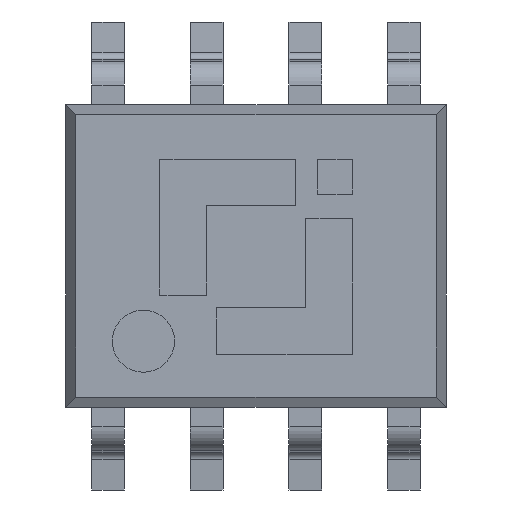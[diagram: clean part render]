
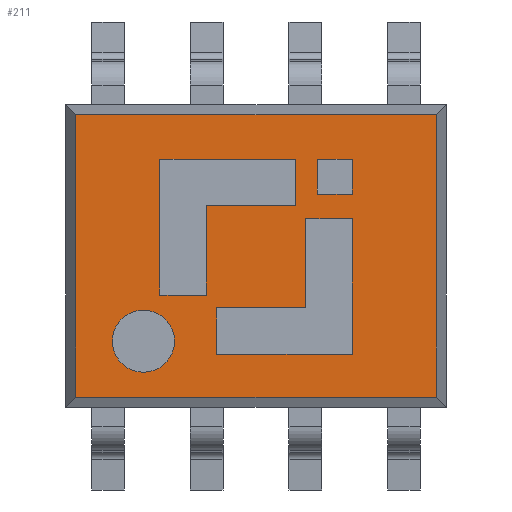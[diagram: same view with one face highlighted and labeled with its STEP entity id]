
A CAD part, top view. The second image highlights one B-rep face of the part: STEP entity #211.
In plain terms, the highlighted planar face has unit normal (0, 0, 1).
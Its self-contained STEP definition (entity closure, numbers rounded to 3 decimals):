
#27=CARTESIAN_POINT('',(0.,0.,1.45));
#28=DIRECTION('',(0.,0.,1.));
#29=DIRECTION('',(1.,0.,0.));
#30=AXIS2_PLACEMENT_3D('',#27,#28,#29);
#31=PLANE('',#30);
#32=CARTESIAN_POINT('',(0.792,0.795,1.45));
#33=VERTEX_POINT('',#32);
#34=CARTESIAN_POINT('',(1.242,0.795,1.45));
#35=VERTEX_POINT('',#34);
#36=CARTESIAN_POINT('',(0.792,0.795,1.45));
#37=DIRECTION('',(1.,0.,0.));
#38=VECTOR('',#37,0.45);
#39=LINE('',#36,#38);
#40=EDGE_CURVE('',#33,#35,#39,.T.);
#41=ORIENTED_EDGE('',*,*,#40,.F.);
#42=CARTESIAN_POINT('',(0.792,1.245,1.45));
#43=VERTEX_POINT('',#42);
#44=CARTESIAN_POINT('',(0.792,1.245,1.45));
#45=DIRECTION('',(0.,-1.,0.));
#46=VECTOR('',#45,0.45);
#47=LINE('',#44,#46);
#48=EDGE_CURVE('',#43,#33,#47,.T.);
#49=ORIENTED_EDGE('',*,*,#48,.F.);
#50=CARTESIAN_POINT('',(1.242,1.245,1.45));
#51=VERTEX_POINT('',#50);
#52=CARTESIAN_POINT('',(1.242,1.245,1.45));
#53=DIRECTION('',(-1.,0.,0.));
#54=VECTOR('',#53,0.45);
#55=LINE('',#52,#54);
#56=EDGE_CURVE('',#51,#43,#55,.T.);
#57=ORIENTED_EDGE('',*,*,#56,.F.);
#58=CARTESIAN_POINT('',(1.242,0.795,1.45));
#59=DIRECTION('',(0.,1.,0.));
#60=VECTOR('',#59,0.45);
#61=LINE('',#58,#60);
#62=EDGE_CURVE('',#35,#51,#61,.T.);
#63=ORIENTED_EDGE('',*,*,#62,.F.);
#64=EDGE_LOOP('',(#41,#49,#57,#63));
#65=FACE_BOUND('',#64,.T.);
#66=CARTESIAN_POINT('',(-1.05,-1.1,1.45));
#67=VERTEX_POINT('',#66);
#68=CARTESIAN_POINT('',(-1.45,-1.1,1.45));
#69=DIRECTION('',(0.,0.,1.));
#70=DIRECTION('',(1.,0.,-0.));
#71=AXIS2_PLACEMENT_3D('',#68,#69,#70);
#72=CIRCLE('',#71,0.4);
#73=EDGE_CURVE('',#67,#67,#72,.T.);
#74=ORIENTED_EDGE('',*,*,#73,.F.);
#75=EDGE_LOOP('',(#74));
#76=FACE_BOUND('',#75,.T.);
#77=CARTESIAN_POINT('',(2.32,-1.82,1.45));
#78=VERTEX_POINT('',#77);
#79=CARTESIAN_POINT('',(2.32,1.82,1.45));
#80=VERTEX_POINT('',#79);
#81=CARTESIAN_POINT('',(2.32,-1.82,1.45));
#82=DIRECTION('',(-0.,1.,0.));
#83=VECTOR('',#82,3.64);
#84=LINE('',#81,#83);
#85=EDGE_CURVE('',#78,#80,#84,.T.);
#86=ORIENTED_EDGE('',*,*,#85,.T.);
#87=CARTESIAN_POINT('',(-2.32,1.82,1.45));
#88=VERTEX_POINT('',#87);
#89=CARTESIAN_POINT('',(2.32,1.82,1.45));
#90=DIRECTION('',(-1.,-0.,0.));
#91=VECTOR('',#90,4.64);
#92=LINE('',#89,#91);
#93=EDGE_CURVE('',#80,#88,#92,.T.);
#94=ORIENTED_EDGE('',*,*,#93,.T.);
#95=CARTESIAN_POINT('',(-2.32,-1.82,1.45));
#96=VERTEX_POINT('',#95);
#97=CARTESIAN_POINT('',(-2.32,1.82,1.45));
#98=DIRECTION('',(0.,-1.,0.));
#99=VECTOR('',#98,3.64);
#100=LINE('',#97,#99);
#101=EDGE_CURVE('',#88,#96,#100,.T.);
#102=ORIENTED_EDGE('',*,*,#101,.T.);
#103=CARTESIAN_POINT('',(-2.32,-1.82,1.45));
#104=DIRECTION('',(1.,0.,0.));
#105=VECTOR('',#104,4.64);
#106=LINE('',#103,#105);
#107=EDGE_CURVE('',#96,#78,#106,.T.);
#108=ORIENTED_EDGE('',*,*,#107,.T.);
#109=EDGE_LOOP('',(#86,#94,#102,#108));
#110=FACE_BOUND('',#109,.T.);
#111=CARTESIAN_POINT('',(-1.238,1.245,1.45));
#112=VERTEX_POINT('',#111);
#113=CARTESIAN_POINT('',(0.512,1.245,1.45));
#114=VERTEX_POINT('',#113);
#115=CARTESIAN_POINT('',(-1.238,1.245,1.45));
#116=DIRECTION('',(1.,0.,-0.));
#117=VECTOR('',#116,1.75);
#118=LINE('',#115,#117);
#119=EDGE_CURVE('',#112,#114,#118,.T.);
#120=ORIENTED_EDGE('',*,*,#119,.T.);
#121=CARTESIAN_POINT('',(0.512,0.645,1.45));
#122=VERTEX_POINT('',#121);
#123=CARTESIAN_POINT('',(0.512,1.245,1.45));
#124=DIRECTION('',(0.,-1.,0.));
#125=VECTOR('',#124,0.6);
#126=LINE('',#123,#125);
#127=EDGE_CURVE('',#114,#122,#126,.T.);
#128=ORIENTED_EDGE('',*,*,#127,.T.);
#129=CARTESIAN_POINT('',(-0.638,0.645,1.45));
#130=VERTEX_POINT('',#129);
#131=CARTESIAN_POINT('',(0.512,0.645,1.45));
#132=DIRECTION('',(-1.,0.,0.));
#133=VECTOR('',#132,1.15);
#134=LINE('',#131,#133);
#135=EDGE_CURVE('',#122,#130,#134,.T.);
#136=ORIENTED_EDGE('',*,*,#135,.T.);
#137=CARTESIAN_POINT('',(-0.638,-0.505,1.45));
#138=VERTEX_POINT('',#137);
#139=CARTESIAN_POINT('',(-0.638,0.645,1.45));
#140=DIRECTION('',(0.,-1.,0.));
#141=VECTOR('',#140,1.15);
#142=LINE('',#139,#141);
#143=EDGE_CURVE('',#130,#138,#142,.T.);
#144=ORIENTED_EDGE('',*,*,#143,.T.);
#145=CARTESIAN_POINT('',(-1.238,-0.505,1.45));
#146=VERTEX_POINT('',#145);
#147=CARTESIAN_POINT('',(-0.638,-0.505,1.45));
#148=DIRECTION('',(-1.,0.,0.));
#149=VECTOR('',#148,0.6);
#150=LINE('',#147,#149);
#151=EDGE_CURVE('',#138,#146,#150,.T.);
#152=ORIENTED_EDGE('',*,*,#151,.T.);
#153=CARTESIAN_POINT('',(-1.238,-0.505,1.45));
#154=DIRECTION('',(0.,1.,0.));
#155=VECTOR('',#154,1.75);
#156=LINE('',#153,#155);
#157=EDGE_CURVE('',#146,#112,#156,.T.);
#158=ORIENTED_EDGE('',*,*,#157,.T.);
#159=EDGE_LOOP('',(#120,#128,#136,#144,#152,#158));
#160=FACE_BOUND('',#159,.T.);
#161=CARTESIAN_POINT('',(0.642,0.479,1.45));
#162=VERTEX_POINT('',#161);
#163=CARTESIAN_POINT('',(1.242,0.479,1.45));
#164=VERTEX_POINT('',#163);
#165=CARTESIAN_POINT('',(0.642,0.479,1.45));
#166=DIRECTION('',(1.,0.,-0.));
#167=VECTOR('',#166,0.6);
#168=LINE('',#165,#167);
#169=EDGE_CURVE('',#162,#164,#168,.T.);
#170=ORIENTED_EDGE('',*,*,#169,.T.);
#171=CARTESIAN_POINT('',(1.242,-1.271,1.45));
#172=VERTEX_POINT('',#171);
#173=CARTESIAN_POINT('',(1.242,0.479,1.45));
#174=DIRECTION('',(0.,-1.,0.));
#175=VECTOR('',#174,1.75);
#176=LINE('',#173,#175);
#177=EDGE_CURVE('',#164,#172,#176,.T.);
#178=ORIENTED_EDGE('',*,*,#177,.T.);
#179=CARTESIAN_POINT('',(-0.508,-1.271,1.45));
#180=VERTEX_POINT('',#179);
#181=CARTESIAN_POINT('',(1.242,-1.271,1.45));
#182=DIRECTION('',(-1.,-0.,0.));
#183=VECTOR('',#182,1.75);
#184=LINE('',#181,#183);
#185=EDGE_CURVE('',#172,#180,#184,.T.);
#186=ORIENTED_EDGE('',*,*,#185,.T.);
#187=CARTESIAN_POINT('',(-0.508,-0.671,1.45));
#188=VERTEX_POINT('',#187);
#189=CARTESIAN_POINT('',(-0.508,-1.271,1.45));
#190=DIRECTION('',(0.,1.,0.));
#191=VECTOR('',#190,0.6);
#192=LINE('',#189,#191);
#193=EDGE_CURVE('',#180,#188,#192,.T.);
#194=ORIENTED_EDGE('',*,*,#193,.T.);
#195=CARTESIAN_POINT('',(0.642,-0.671,1.45));
#196=VERTEX_POINT('',#195);
#197=CARTESIAN_POINT('',(-0.508,-0.671,1.45));
#198=DIRECTION('',(1.,0.,0.));
#199=VECTOR('',#198,1.15);
#200=LINE('',#197,#199);
#201=EDGE_CURVE('',#188,#196,#200,.T.);
#202=ORIENTED_EDGE('',*,*,#201,.T.);
#203=CARTESIAN_POINT('',(0.642,-0.671,1.45));
#204=DIRECTION('',(0.,1.,0.));
#205=VECTOR('',#204,1.15);
#206=LINE('',#203,#205);
#207=EDGE_CURVE('',#196,#162,#206,.T.);
#208=ORIENTED_EDGE('',*,*,#207,.T.);
#209=EDGE_LOOP('',(#170,#178,#186,#194,#202,#208));
#210=FACE_BOUND('',#209,.T.);
#211=ADVANCED_FACE('',(#65,#76,#110,#160,#210),#31,.T.);
